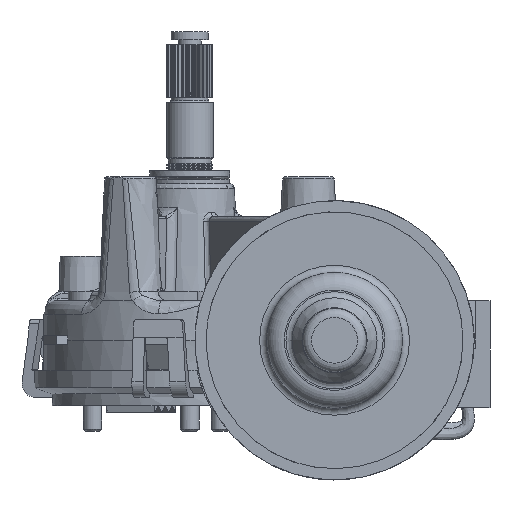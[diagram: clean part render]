
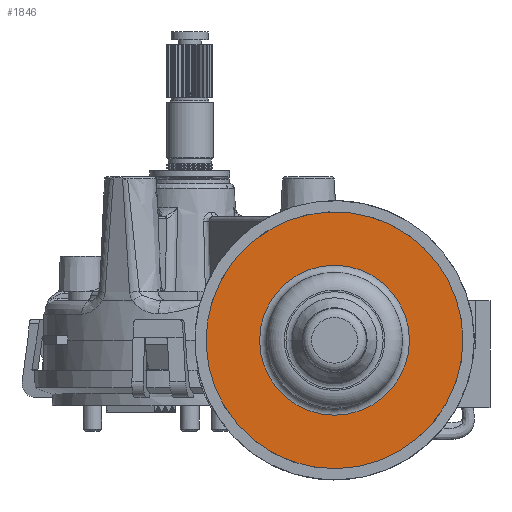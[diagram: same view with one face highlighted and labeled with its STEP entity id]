
A CAD part, front view. The second image highlights one B-rep face of the part: STEP entity #1846.
In plain terms, the highlighted planar face has unit normal (0, -1, 0).
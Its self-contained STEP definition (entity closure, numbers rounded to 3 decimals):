
#724=FACE_BOUND('',#5212,.T.);
#725=FACE_BOUND('',#5213,.T.);
#1846=ADVANCED_FACE('',(#724,#725),#2931,.T.);
#2931=PLANE('',#25956);
#5212=EDGE_LOOP('',(#11684,#11685,#11686,#11687,#11688,#11689,#11690,#11691));
#5213=EDGE_LOOP('',(#11692));
#6422=CIRCLE('',#25634,27.5);
#6423=CIRCLE('',#25636,27.5);
#6424=CIRCLE('',#25637,27.5);
#6425=CIRCLE('',#25638,27.5);
#6426=CIRCLE('',#25639,27.5);
#6427=CIRCLE('',#25643,27.5);
#6428=CIRCLE('',#25645,27.5);
#6429=CIRCLE('',#25648,27.5);
#6511=CIRCLE('',#25955,16.05);
#11684=ORIENTED_EDGE('',*,*,#19444,.T.);
#11685=ORIENTED_EDGE('',*,*,#19441,.T.);
#11686=ORIENTED_EDGE('',*,*,#19445,.T.);
#11687=ORIENTED_EDGE('',*,*,#19440,.T.);
#11688=ORIENTED_EDGE('',*,*,#19437,.T.);
#11689=ORIENTED_EDGE('',*,*,#19439,.T.);
#11690=ORIENTED_EDGE('',*,*,#19448,.T.);
#11691=ORIENTED_EDGE('',*,*,#19438,.T.);
#11692=ORIENTED_EDGE('',*,*,#20112,.F.);
#16187=VERTEX_POINT('',#36746);
#16194=VERTEX_POINT('',#36775);
#16200=VERTEX_POINT('',#36793);
#16203=VERTEX_POINT('',#36804);
#16205=VERTEX_POINT('',#36812);
#16212=VERTEX_POINT('',#36842);
#16214=VERTEX_POINT('',#36847);
#16217=VERTEX_POINT('',#36858);
#17046=VERTEX_POINT('',#46952);
#19437=EDGE_CURVE('GENERATED CIRCLE',#16187,#16212,#6422,.T.);
#19438=EDGE_CURVE('GENERATED CIRCLE',#16217,#16205,#6423,.T.);
#19439=EDGE_CURVE('GENERATED CIRCLE',#16212,#16214,#6424,.T.);
#19440=EDGE_CURVE('GENERATED CIRCLE',#16203,#16187,#6425,.T.);
#19441=EDGE_CURVE('GENERATED CIRCLE',#16194,#16200,#6426,.T.);
#19444=EDGE_CURVE('GENERATED CIRCLE',#16205,#16194,#6427,.T.);
#19445=EDGE_CURVE('GENERATED CIRCLE',#16200,#16203,#6428,.T.);
#19448=EDGE_CURVE('GENERATED CIRCLE',#16214,#16217,#6429,.T.);
#20112=EDGE_CURVE('GENERATED CIRCLE',#17046,#17046,#6511,.T.);
#25634=AXIS2_PLACEMENT_3D('',#41072,#28502,#28503);
#25636=AXIS2_PLACEMENT_3D('',#41074,#28506,#28507);
#25637=AXIS2_PLACEMENT_3D('',#41075,#28508,#28509);
#25638=AXIS2_PLACEMENT_3D('',#41076,#28510,#28511);
#25639=AXIS2_PLACEMENT_3D('',#41077,#28512,#28513);
#25643=AXIS2_PLACEMENT_3D('',#41084,#28522,#28523);
#25645=AXIS2_PLACEMENT_3D('',#41086,#28526,#28527);
#25648=AXIS2_PLACEMENT_3D('',#41092,#28534,#28535);
#25955=AXIS2_PLACEMENT_3D('',#46951,#29477,#29478);
#25956=AXIS2_PLACEMENT_3D('',#46953,#29479,#29480);
#28502=DIRECTION('',(0.,-1.,0.));
#28503=DIRECTION('',(1.,0.,0.));
#28506=DIRECTION('',(0.,-1.,0.));
#28507=DIRECTION('',(1.,0.,0.));
#28508=DIRECTION('',(0.,-1.,0.));
#28509=DIRECTION('',(1.,0.,0.));
#28510=DIRECTION('',(0.,-1.,0.));
#28511=DIRECTION('',(1.,0.,0.));
#28512=DIRECTION('',(0.,-1.,0.));
#28513=DIRECTION('',(1.,0.,0.));
#28522=DIRECTION('',(0.,-1.,0.));
#28523=DIRECTION('',(1.,0.,0.));
#28526=DIRECTION('',(0.,-1.,0.));
#28527=DIRECTION('',(1.,0.,0.));
#28534=DIRECTION('',(0.,-1.,0.));
#28535=DIRECTION('',(1.,0.,0.));
#29477=DIRECTION('',(0.,-1.,0.));
#29478=DIRECTION('',(1.,0.,0.));
#29479=DIRECTION('',(0.,-1.,0.));
#29480=DIRECTION('',(0.174,0.,0.985));
#36746=CARTESIAN_POINT('',(16.14,-111.3,-13.639));
#36775=CARTESIAN_POINT('',(34.49,-111.3,36.778));
#36793=CARTESIAN_POINT('',(7.861,-111.3,24.36));
#36804=CARTESIAN_POINT('',(3.722,-111.3,12.99));
#36812=CARTESIAN_POINT('',(45.86,-111.3,32.639));
#36842=CARTESIAN_POINT('',(27.51,-111.3,-17.778));
#36847=CARTESIAN_POINT('',(54.139,-111.3,-5.36));
#36858=CARTESIAN_POINT('',(58.278,-111.3,6.01));
#41072=CARTESIAN_POINT('',(31.,-111.3,9.5));
#41074=CARTESIAN_POINT('',(31.,-111.3,9.5));
#41075=CARTESIAN_POINT('',(31.,-111.3,9.5));
#41076=CARTESIAN_POINT('',(31.,-111.3,9.5));
#41077=CARTESIAN_POINT('',(31.,-111.3,9.5));
#41084=CARTESIAN_POINT('',(31.,-111.3,9.5));
#41086=CARTESIAN_POINT('',(31.,-111.3,9.5));
#41092=CARTESIAN_POINT('',(31.,-111.3,9.5));
#46951=CARTESIAN_POINT('',(31.,-111.3,9.5));
#46952=CARTESIAN_POINT('',(47.05,-111.3,9.5));
#46953=CARTESIAN_POINT('',(31.,-111.3,9.5));
